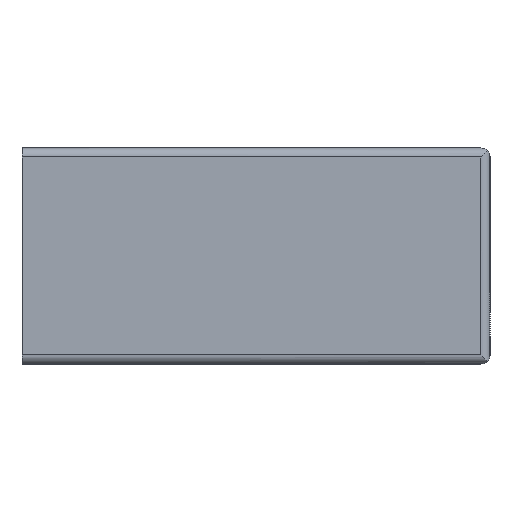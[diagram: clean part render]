
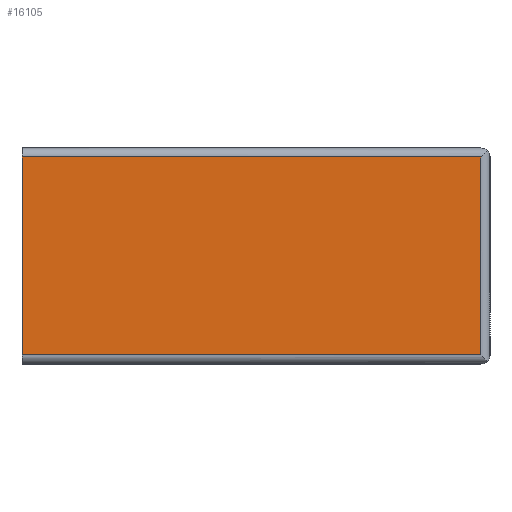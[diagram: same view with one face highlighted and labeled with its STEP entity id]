
A CAD part, left-side view. The second image highlights one B-rep face of the part: STEP entity #16105.
In plain terms, the highlighted planar face has unit normal (-1, 0, 0).
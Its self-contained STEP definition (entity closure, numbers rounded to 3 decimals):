
#6895 = VERTEX_POINT( '', #19824 );
#7351 = EDGE_CURVE( '', #8081, #6895, #20323, .T. );
#7891 = EDGE_CURVE( '', #17531, #11917, #20915, .T. );
#8081 = VERTEX_POINT( '', #21124 );
#11917 = VERTEX_POINT( '', #25317 );
#15467 = EDGE_CURVE( '', #11917, #6895, #29212, .T. );
#16105 = ADVANCED_FACE( '', ( #29904 ), #29905, .T. );
#16425 = EDGE_CURVE( '', #17531, #8081, #30249, .T. );
#17531 = VERTEX_POINT( '', #31472 );
#19824 = CARTESIAN_POINT( '', ( -6., 0., -5.5 ) );
#20323 = LINE( '', #35069, #35070 );
#20915 = LINE( '', #36048, #36049 );
#21124 = CARTESIAN_POINT( '', ( -6., -25.5, -5.5 ) );
#25317 = CARTESIAN_POINT( '', ( -6., 0., 5.5 ) );
#29212 = LINE( '', #49894, #49895 );
#29904 = FACE_OUTER_BOUND( '', #51028, .T. );
#29905 = PLANE( '', #51029 );
#30249 = LINE( '', #51526, #51527 );
#31472 = CARTESIAN_POINT( '', ( -6., -25.5, 5.5 ) );
#35069 = CARTESIAN_POINT( '', ( -6., -12.75, -5.5 ) );
#35070 = VECTOR( '', #57762, 1. );
#36048 = CARTESIAN_POINT( '', ( -6., -12.75, 5.5 ) );
#36049 = VECTOR( '', #58442, 1. );
#49894 = CARTESIAN_POINT( '', ( -6., 0., 6. ) );
#49895 = VECTOR( '', #68555, 1. );
#51028 = EDGE_LOOP( '', ( #69371, #69372, #69373, #69374 ) );
#51029 = AXIS2_PLACEMENT_3D( '', #69375, #69376, #69377 );
#51526 = CARTESIAN_POINT( '', ( -6., -25.5, 6. ) );
#51527 = VECTOR( '', #69749, 1. );
#57762 = DIRECTION( '', ( 0., 1., 0. ) );
#58442 = DIRECTION( '', ( 0., 1., 0. ) );
#68555 = DIRECTION( '', ( 0., 0., -1. ) );
#69371 = ORIENTED_EDGE( '', *, *, #7351, .F. );
#69372 = ORIENTED_EDGE( '', *, *, #16425, .F. );
#69373 = ORIENTED_EDGE( '', *, *, #7891, .T. );
#69374 = ORIENTED_EDGE( '', *, *, #15467, .T. );
#69375 = CARTESIAN_POINT( '', ( -6., 0., 6. ) );
#69376 = DIRECTION( '', ( -1., 0., 0. ) );
#69377 = DIRECTION( '', ( 0., 1., 0. ) );
#69749 = DIRECTION( '', ( 0., 0., -1. ) );
